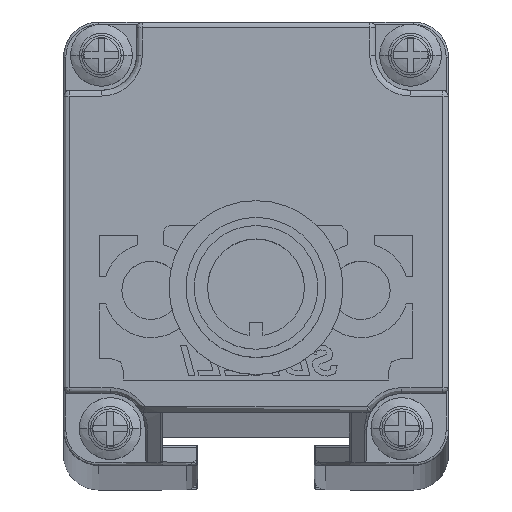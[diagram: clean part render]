
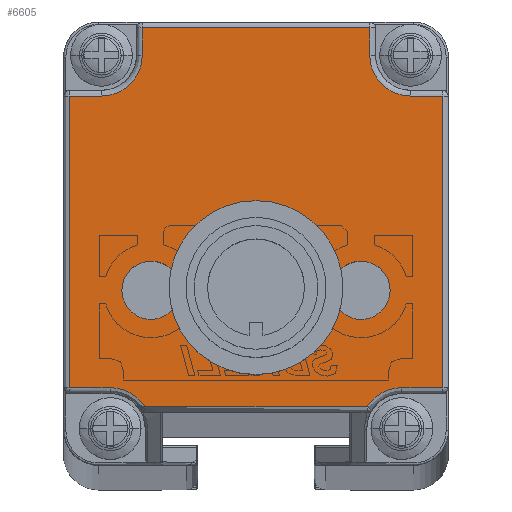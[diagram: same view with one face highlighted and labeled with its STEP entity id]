
A CAD part, top view. The second image highlights one B-rep face of the part: STEP entity #6605.
In plain terms, the highlighted planar face has unit normal (0, 0, 1).
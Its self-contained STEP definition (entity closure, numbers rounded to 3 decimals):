
#2629=CARTESIAN_POINT('',(0.65,-8.054,
1085.276));
#2630=DIRECTION('',(0.,0.,1.));
#2631=DIRECTION('',(1.,0.,0.));
#2632=AXIS2_PLACEMENT_3D('',#2629,#2630,#2631);
#2634=CARTESIAN_POINT('',(0.65,-8.054,
1085.276));
#2635=DIRECTION('',(0.,0.,1.));
#2636=DIRECTION('',(-1.,0.,0.));
#2637=AXIS2_PLACEMENT_3D('',#2634,#2635,#2636);
#2639=CARTESIAN_POINT('',(9.65,-8.055,1085.276));
#2640=DIRECTION('',(0.,0.,1.));
#2641=DIRECTION('',(1.,-0.007,0.));
#2642=AXIS2_PLACEMENT_3D('',#2639,#2640,#2641);
#2644=CARTESIAN_POINT('',(9.65,-8.055,1085.276));
#2645=DIRECTION('',(0.,0.,1.));
#2646=DIRECTION('',(-1.,0.007,0.));
#2647=AXIS2_PLACEMENT_3D('',#2644,#2645,#2646);
#2649=CARTESIAN_POINT('',(-8.35,-8.054,
1085.276));
#2650=DIRECTION('',(0.,0.,1.));
#2651=DIRECTION('',(1.,0.007,0.));
#2652=AXIS2_PLACEMENT_3D('',#2649,#2650,#2651);
#2654=CARTESIAN_POINT('',(-8.35,-8.054,
1085.276));
#2655=DIRECTION('',(0.,0.,1.));
#2656=DIRECTION('',(-1.,-0.007,0.));
#2657=AXIS2_PLACEMENT_3D('',#2654,#2655,#2656);
#2659=CARTESIAN_POINT('',(-11.85,-19.904,
1085.276));
#2660=DIRECTION('',(0.,0.,1.));
#2661=DIRECTION('',(0.849,0.528,0.));
#2662=AXIS2_PLACEMENT_3D('',#2659,#2660,#2661);
#2664=CARTESIAN_POINT('',(-12.6,12.094,1085.276));
#2665=DIRECTION('',(0.,0.,1.));
#2666=DIRECTION('',(0.,-1.,0.));
#2667=AXIS2_PLACEMENT_3D('',#2664,#2665,#2666);
#2669=CARTESIAN_POINT('',(13.9,12.094,1085.276));
#2670=DIRECTION('',(0.,0.,1.));
#2671=DIRECTION('',(-1.,0.,0.));
#2672=AXIS2_PLACEMENT_3D('',#2669,#2670,#2671);
#2674=CARTESIAN_POINT('',(13.15,-19.904,1085.276));
#2675=DIRECTION('',(0.,0.,1.));
#2676=DIRECTION('',(0.,1.,0.));
#2677=AXIS2_PLACEMENT_3D('',#2674,#2675,#2676);
#4225=DIRECTION('',(1.,0.,0.));
#4226=VECTOR('',#4225,19.056);
#4227=CARTESIAN_POINT('',(-8.878,-18.056,
1085.276));
#4228=LINE('',#4227,#4226);
#4893=DIRECTION('',(0.,1.,0.));
#4894=VECTOR('',#4893,2.35);
#4895=CARTESIAN_POINT('',(10.4,12.094,1085.276));
#4896=LINE('',#4895,#4894);
#4916=DIRECTION('',(-1.,0.,0.));
#4917=VECTOR('',#4916,19.5);
#4918=CARTESIAN_POINT('',(10.4,14.444,1085.276));
#4919=LINE('',#4918,#4917);
#4940=DIRECTION('',(0.,-1.,0.));
#4941=VECTOR('',#4940,2.35);
#4942=CARTESIAN_POINT('',(-9.1,14.444,1085.276));
#4943=LINE('',#4942,#4941);
#4967=DIRECTION('',(-1.,0.,0.));
#4968=VECTOR('',#4967,2.75);
#4969=CARTESIAN_POINT('',(-12.6,8.594,1085.276));
#4970=LINE('',#4969,#4968);
#4998=DIRECTION('',(0.,-1.,0.));
#4999=VECTOR('',#4998,24.998);
#5000=CARTESIAN_POINT('',(-15.35,8.594,1085.276));
#5001=LINE('',#5000,#4999);
#5022=DIRECTION('',(1.,0.,0.));
#5023=VECTOR('',#5022,3.5);
#5024=CARTESIAN_POINT('',(-15.35,-16.404,
1085.276));
#5025=LINE('',#5024,#5023);
#5086=DIRECTION('',(-1.,0.,0.));
#5087=VECTOR('',#5086,2.75);
#5088=CARTESIAN_POINT('',(16.65,8.594,1085.276));
#5089=LINE('',#5088,#5087);
#5326=DIRECTION('',(1.,0.,0.));
#5327=VECTOR('',#5326,3.5);
#5328=CARTESIAN_POINT('',(13.15,-16.404,1085.276));
#5329=LINE('',#5328,#5327);
#5357=DIRECTION('',(0.,1.,0.));
#5358=VECTOR('',#5357,24.998);
#5359=CARTESIAN_POINT('',(16.65,-16.404,1085.276));
#5360=LINE('',#5359,#5358);
#5721=CARTESIAN_POINT('',(12.15,-8.072,1085.276));
#5722=VERTEX_POINT('',#5721);
#5723=CARTESIAN_POINT('',(7.15,-8.039,1085.276));
#5724=VERTEX_POINT('',#5723);
#5725=CARTESIAN_POINT('',(-8.878,-18.056,
1085.276));
#5726=CARTESIAN_POINT('',(-11.85,-16.404,
1085.276));
#5727=VERTEX_POINT('',#5725);
#5728=VERTEX_POINT('',#5726);
#5729=CARTESIAN_POINT('',(-15.35,-16.404,
1085.276));
#5730=VERTEX_POINT('',#5729);
#5731=CARTESIAN_POINT('',(-15.35,8.594,1085.276));
#5732=VERTEX_POINT('',#5731);
#5733=CARTESIAN_POINT('',(-12.6,8.594,1085.276));
#5734=VERTEX_POINT('',#5733);
#5735=CARTESIAN_POINT('',(-9.1,12.094,1085.276));
#5736=VERTEX_POINT('',#5735);
#5737=CARTESIAN_POINT('',(-9.1,14.444,1085.276));
#5738=VERTEX_POINT('',#5737);
#5739=CARTESIAN_POINT('',(10.4,14.444,1085.276));
#5740=VERTEX_POINT('',#5739);
#5741=CARTESIAN_POINT('',(10.4,12.094,1085.276));
#5742=VERTEX_POINT('',#5741);
#5743=CARTESIAN_POINT('',(13.9,8.594,1085.276));
#5744=VERTEX_POINT('',#5743);
#5745=CARTESIAN_POINT('',(16.65,8.594,1085.276));
#5746=VERTEX_POINT('',#5745);
#5747=CARTESIAN_POINT('',(16.65,-16.404,1085.276));
#5748=VERTEX_POINT('',#5747);
#5749=CARTESIAN_POINT('',(13.15,-16.404,1085.276));
#5750=VERTEX_POINT('',#5749);
#5751=CARTESIAN_POINT('',(10.178,-18.056,1085.276));
#5752=VERTEX_POINT('',#5751);
#5753=CARTESIAN_POINT('',(-5.85,-8.037,
1085.276));
#5754=CARTESIAN_POINT('',(-10.85,-8.07,
1085.276));
#5755=VERTEX_POINT('',#5753);
#5756=VERTEX_POINT('',#5754);
#5757=CARTESIAN_POINT('',(3.65,-8.054,1085.276));
#5758=CARTESIAN_POINT('',(-2.35,-8.054,
1085.276));
#5759=VERTEX_POINT('',#5757);
#5760=VERTEX_POINT('',#5758);
#6554=CARTESIAN_POINT('',(0.65,0.944,
1085.276));
#6555=DIRECTION('',(0.,0.,1.));
#6556=DIRECTION('',(1.,0.,0.));
#6557=AXIS2_PLACEMENT_3D('',#6554,#6555,#6556);
#6558=PLANE('',#6557);
#6560=ORIENTED_EDGE('',*,*,#6559,.T.);
#6562=ORIENTED_EDGE('',*,*,#6561,.F.);
#6564=ORIENTED_EDGE('',*,*,#6563,.F.);
#6566=ORIENTED_EDGE('',*,*,#6565,.F.);
#6568=ORIENTED_EDGE('',*,*,#6567,.T.);
#6570=ORIENTED_EDGE('',*,*,#6569,.F.);
#6572=ORIENTED_EDGE('',*,*,#6571,.F.);
#6574=ORIENTED_EDGE('',*,*,#6573,.F.);
#6576=ORIENTED_EDGE('',*,*,#6575,.T.);
#6578=ORIENTED_EDGE('',*,*,#6577,.F.);
#6580=ORIENTED_EDGE('',*,*,#6579,.F.);
#6582=ORIENTED_EDGE('',*,*,#6581,.F.);
#6584=ORIENTED_EDGE('',*,*,#6583,.T.);
#6586=ORIENTED_EDGE('',*,*,#6585,.F.);
#6587=EDGE_LOOP('',(#6560,#6562,#6564,#6566,#6568,#6570,#6572,#6574,#6576,#6578,
#6580,#6582,#6584,#6586));
#6588=FACE_OUTER_BOUND('',#6587,.F.);
#6589=ORIENTED_EDGE('',*,*,#6541,.T.);
#6590=ORIENTED_EDGE('',*,*,#6502,.T.);
#6591=EDGE_LOOP('',(#6589,#6590));
#6592=FACE_BOUND('',#6591,.F.);
#6594=ORIENTED_EDGE('',*,*,#6593,.T.);
#6596=ORIENTED_EDGE('',*,*,#6595,.T.);
#6597=EDGE_LOOP('',(#6594,#6596));
#6598=FACE_BOUND('',#6597,.F.);
#6600=ORIENTED_EDGE('',*,*,#6599,.T.);
#6602=ORIENTED_EDGE('',*,*,#6601,.T.);
#6603=EDGE_LOOP('',(#6600,#6602));
#6604=FACE_BOUND('',#6603,.F.);
#2633=CIRCLE('',#2632,3.);
#2638=CIRCLE('',#2637,3.);
#2643=CIRCLE('',#2642,2.5);
#2648=CIRCLE('',#2647,2.5);
#2653=CIRCLE('',#2652,2.5);
#2658=CIRCLE('',#2657,2.5);
#2663=CIRCLE('',#2662,3.5);
#2668=CIRCLE('',#2667,3.5);
#2673=CIRCLE('',#2672,3.5);
#2678=CIRCLE('',#2677,3.5);
#6502=EDGE_CURVE('',#5724,#5722,#2648,.T.);
#6541=EDGE_CURVE('',#5722,#5724,#2643,.T.);
#6559=EDGE_CURVE('',#5727,#5728,#2663,.T.);
#6561=EDGE_CURVE('',#5730,#5728,#5025,.T.);
#6563=EDGE_CURVE('',#5732,#5730,#5001,.T.);
#6565=EDGE_CURVE('',#5734,#5732,#4970,.T.);
#6567=EDGE_CURVE('',#5734,#5736,#2668,.T.);
#6569=EDGE_CURVE('',#5738,#5736,#4943,.T.);
#6571=EDGE_CURVE('',#5740,#5738,#4919,.T.);
#6573=EDGE_CURVE('',#5742,#5740,#4896,.T.);
#6575=EDGE_CURVE('',#5742,#5744,#2673,.T.);
#6577=EDGE_CURVE('',#5746,#5744,#5089,.T.);
#6579=EDGE_CURVE('',#5748,#5746,#5360,.T.);
#6581=EDGE_CURVE('',#5750,#5748,#5329,.T.);
#6583=EDGE_CURVE('',#5750,#5752,#2678,.T.);
#6585=EDGE_CURVE('',#5727,#5752,#4228,.T.);
#6593=EDGE_CURVE('',#5755,#5756,#2653,.T.);
#6595=EDGE_CURVE('',#5756,#5755,#2658,.T.);
#6599=EDGE_CURVE('',#5759,#5760,#2633,.T.);
#6601=EDGE_CURVE('',#5760,#5759,#2638,.T.);
#6605=ADVANCED_FACE('',(#6588,#6592,#6598,#6604),#6558,.T.);
